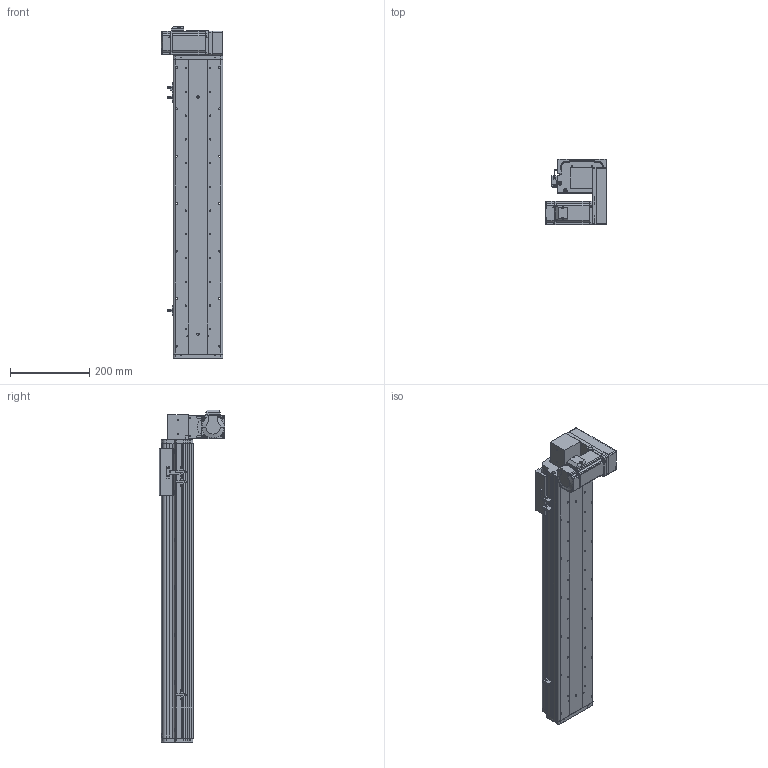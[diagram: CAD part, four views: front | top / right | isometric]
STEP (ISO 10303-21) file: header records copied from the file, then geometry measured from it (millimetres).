
FILE_DESCRIPTION (( 'STEP AP214' ), '1' );
FILE_NAME ('KSD125B-S550-MLD-CM.STEP', '2017-10-21T02:18:45', ( '微软用户' ), ( '微软中国' ), 'SwSTEP 2.0', 'SolidWorks 2014', '' );
FILE_SCHEMA (( 'AUTOMOTIVE_DESIGN' ));
Length unit declared in the file: millimetre
Products named in the file (17): KSD125模组同步带-防撞垫2; 覜茼え68遵圉猾敕; U倰嫖萇假蚾璃; U倰嫖萇EEㄜSX672; KSD125模组同步带-防撞垫1; 前端板-125宽模组同步带; 125模组同步带-尾端板1; KSD125模组同步带-滑动座1; KSD125B-S550-MLD-CM; 悵誘欶奻狟殏; 100宽马达安装板连板上下折丝杆同步带; HTPA30S3M150_A_H6_a佪裝蚚; HTPA30S3M150_A_H6_a萇儂蚚; 100宽马达安装板同步带左; MHMD042G1CA_2_03; KSD125模组550行程同步带-防尘盖; 125模组550行程同步带-底板
Assembly tree (20 placements, depth 2):
  KSD125B-S550-MLD-CM
    KSD125模组同步带-滑动座1
    125模组同步带-尾端板1
    前端板-125宽模组同步带
    KSD125模组同步带-防撞垫1
    U倰嫖萇EEㄜSX672  x3
    U倰嫖萇假蚾璃  x3
    覜茼え68遵圉猾敕
    KSD125模组同步带-防撞垫2
    125模组550行程同步带-底板
    KSD125模组550行程同步带-防尘盖
    MHMD042G1CA_2_03
    100宽马达安装板同步带左
    HTPA30S3M150_A_H6_a萇儂蚚
    HTPA30S3M150_A_H6_a佪裝蚚
    100宽马达安装板连板上下折丝杆同步带
    悵誘欶奻狟殏
Bounding box: 155 x 166.5 x 839 mm (x, y, z)
Volume: 2723389.8 mm3; surface area: 942662.4 mm2
Topology: 19 solids, 22 shells, 2253 faces, 6523 edges, 4310 vertices
Faces by surface type: cylinder 1404, plane 722, cone 105, bspline 22
Entity records: 79901 total; most frequent: CARTESIAN_POINT 15801, DIRECTION 12428, ORIENTED_EDGE 11566, EDGE_CURVE 5861, AXIS2_PLACEMENT_3D 4797, VERTEX_POINT 3902, VECTOR 2834, LINE 2834
